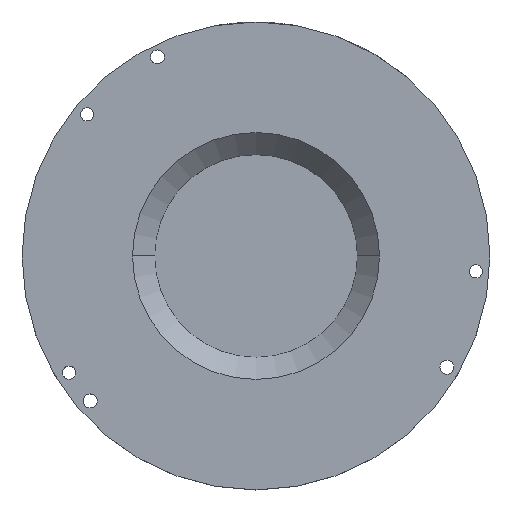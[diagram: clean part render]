
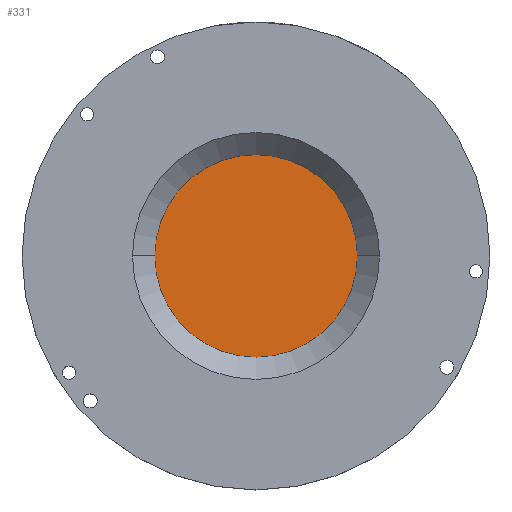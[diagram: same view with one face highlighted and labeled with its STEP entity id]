
A CAD part, top view. The second image highlights one B-rep face of the part: STEP entity #331.
In plain terms, the highlighted planar face has unit normal (0, 0, 1).
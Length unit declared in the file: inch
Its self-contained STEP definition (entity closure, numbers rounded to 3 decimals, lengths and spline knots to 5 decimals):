
#196 = DIRECTION ( 'NONE',  ( 0., 0., 1. ) ) ;
#222 = CIRCLE ( 'NONE', #795, 0.689 ) ;
#281 = DIRECTION ( 'NONE',  ( -1., 0., 0. ) ) ;
#328 = EDGE_LOOP ( 'NONE', ( #1258, #838 ) ) ;
#331 = ADVANCED_FACE ( 'NONE', ( #953 ), #385, .F. ) ;
#385 = PLANE ( 'NONE',  #714 ) ;
#524 = EDGE_CURVE ( 'NONE', #1829, #2010, #222, .T. ) ;
#548 = CIRCLE ( 'NONE', #2046, 0.689 ) ;
#575 = DIRECTION ( 'NONE',  ( 0., 0., -1. ) ) ;
#591 = DIRECTION ( 'NONE',  ( 1., 0., 0. ) ) ;
#714 = AXIS2_PLACEMENT_3D ( 'NONE', #963, #575, #281 ) ;
#795 = AXIS2_PLACEMENT_3D ( 'NONE', #2111, #2218, #2114 ) ;
#838 = ORIENTED_EDGE ( 'NONE', *, *, #524, .T. ) ;
#953 = FACE_OUTER_BOUND ( 'NONE', #328, .T. ) ;
#963 = CARTESIAN_POINT ( 'NONE',  ( 0., 0., 0.06 ) ) ;
#1103 = CARTESIAN_POINT ( 'NONE',  ( 0., 0., 0.06 ) ) ;
#1258 = ORIENTED_EDGE ( 'NONE', *, *, #2177, .T. ) ;
#1377 = CARTESIAN_POINT ( 'NONE',  ( 0.689, 0., 0.06 ) ) ;
#1544 = CARTESIAN_POINT ( 'NONE',  ( -0.689, 0., 0.06 ) ) ;
#1829 = VERTEX_POINT ( 'NONE', #1544 ) ;
#2010 = VERTEX_POINT ( 'NONE', #1377 ) ;
#2046 = AXIS2_PLACEMENT_3D ( 'NONE', #1103, #196, #591 ) ;
#2111 = CARTESIAN_POINT ( 'NONE',  ( 0., 0., 0.06 ) ) ;
#2114 = DIRECTION ( 'NONE',  ( 1., 0., 0. ) ) ;
#2177 = EDGE_CURVE ( 'NONE', #2010, #1829, #548, .T. ) ;
#2218 = DIRECTION ( 'NONE',  ( 0., 0., 1. ) ) ;
